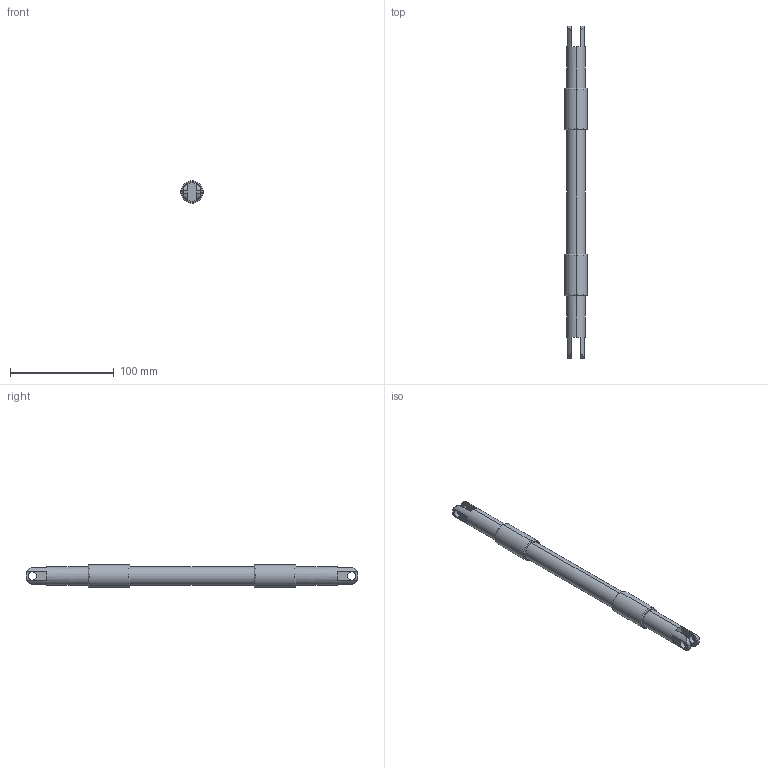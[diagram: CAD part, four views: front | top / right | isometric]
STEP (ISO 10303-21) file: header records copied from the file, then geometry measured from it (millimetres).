
FILE_DESCRIPTION (( 'STEP AP203' ), '1' );
FILE_NAME ('LEG SUPPORT.STEP', '2020-08-13T18:26:05', ( 'user' ), ( '' ), 'SwSTEP 2.0', 'SolidWorks 2018', '' );
FILE_SCHEMA (( 'CONFIG_CONTROL_DESIGN' ));
Length unit declared in the file: millimetre
Products named in the file (1): LEG SUPPORT
Bounding box: 22 x 320 x 22 mm (x, y, z)
Volume: 84448.8 mm3; surface area: 20413.5 mm2
Topology: 1 solids, 1 shells, 56 faces, 142 edges, 92 vertices
Faces by surface type: cylinder 26, plane 22, torus 8
Entity records: 1931 total; most frequent: CARTESIAN_POINT 427, DIRECTION 324, ORIENTED_EDGE 284, EDGE_CURVE 142, AXIS2_PLACEMENT_3D 133, VERTEX_POINT 92, CIRCLE 76, EDGE_LOOP 68
